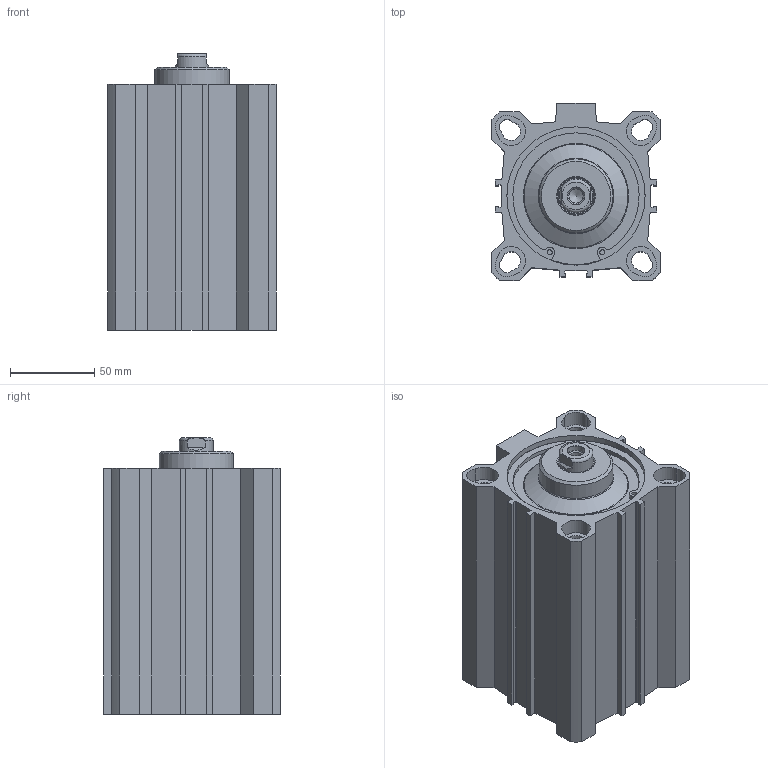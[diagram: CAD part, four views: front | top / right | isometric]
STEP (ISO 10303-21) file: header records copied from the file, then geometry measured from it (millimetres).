
FILE_DESCRIPTION(/* description */ ('Unknown'),/* implementation_level */ '2;1');
FILE_NAME(/* name */ 'FIN 80_100',/* time_stamp */ '2026-05-12T08:44:41+02:00',/* author */ ('Unknown'),/* organization */ ('Unknown'),/* preprocessor_version */ 'ST-DEVELOPER v18.102',/* originating_system */ 'Solid Edge',/* authorisation */ 'Unknown');
FILE_SCHEMA (('AUTOMOTIVE_DESIGN {1 0 10303 214 3 1 1}'));
Length unit declared in the file: millimetre
Products named in the file (5): FIN 80_100; Kolbenstange; Profilrohr; Kit_1; Kit_2
Assembly tree (4 placements, depth 2):
  FIN 80_100
    Kolbenstange
    Profilrohr
    Kit_1
    Kit_2
Bounding box: 100 x 105 x 164 mm (x, y, z)
Volume: 699136 mm3; surface area: 196997.9 mm2
Topology: 4 solids, 4 shells, 242 faces, 593 edges, 382 vertices
Faces by surface type: plane 107, cylinder 96, cone 28, torus 11
Full cylindrical faces by diameter (mm): 3 x4, 4.3 x2, 8.376 x2, 10.25 x1, 11.445 x4, 20 x1, 20.6 x1, 21.9 x1, 23 x1, 24.8 x1, 25 x1, 44 x1, 62 x1, 80 x2, 80.2 x1, 81.7 x4, 82.1 x2, 85.6 x2
Entity records: 8593 total; most frequent: CARTESIAN_POINT 1247, DIRECTION 1220, ORIENTED_EDGE 1016, EDGE_CURVE 508, AXIS2_PLACEMENT_3D 475, VERTEX_POINT 367, FACE_BOUND 351, EDGE_LOOP 350
